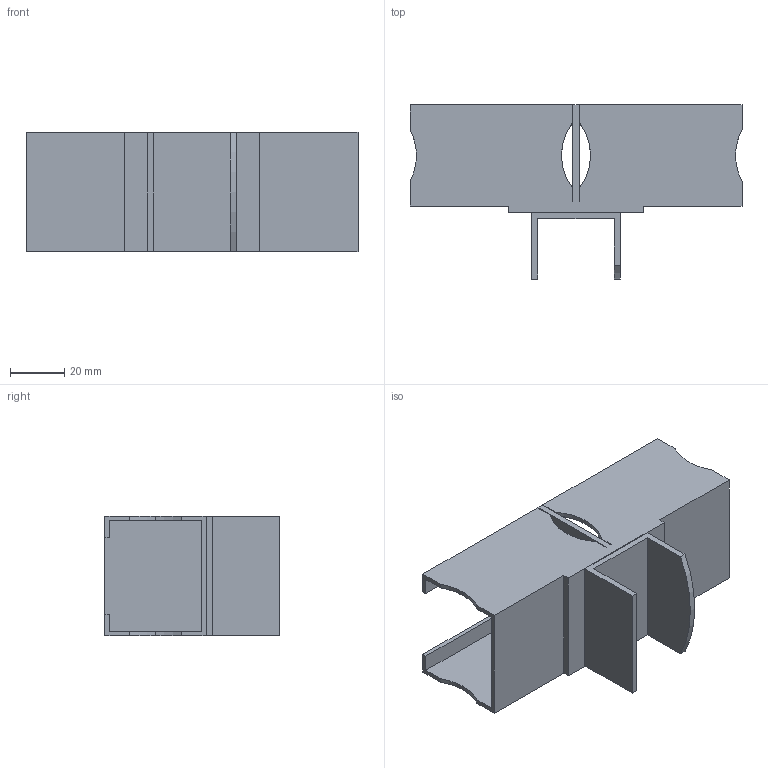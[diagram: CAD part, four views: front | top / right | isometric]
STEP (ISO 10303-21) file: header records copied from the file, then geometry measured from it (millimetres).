
FILE_DESCRIPTION (( 'STEP AP214' ), '1' );
FILE_NAME ('JB-503.step', '2024-02-15T05:04:20', ( 'catia' ), ( 'HP Inc.' ), 'SwSTEP 2.0', 'SolidWorks 2021', '' );
FILE_SCHEMA (( 'AUTOMOTIVE_DESIGN' ));
Length unit declared in the file: millimetre
Products named in the file (1): JB-503
Bounding box: 122.3 x 64.2 x 44.2 mm (x, y, z)
Volume: 40469.3 mm3; surface area: 39323.3 mm2
Topology: 1 solids, 1 shells, 63 faces, 180 edges, 120 vertices
Faces by surface type: plane 50, cylinder 13
Entity records: 2074 total; most frequent: CARTESIAN_POINT 364, ORIENTED_EDGE 360, DIRECTION 334, EDGE_CURVE 180, VECTOR 154, LINE 154, VERTEX_POINT 120, AXIS2_PLACEMENT_3D 90
